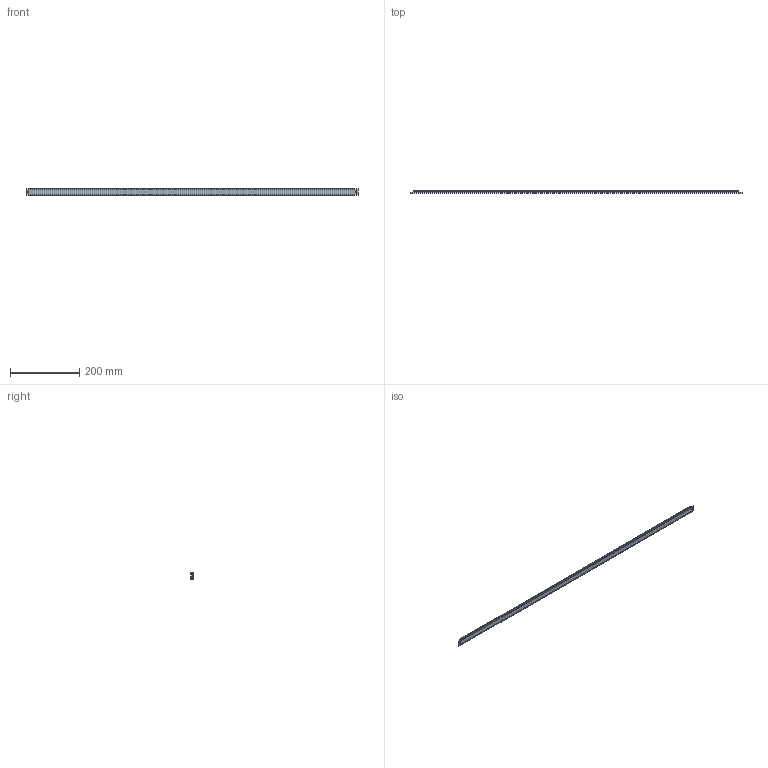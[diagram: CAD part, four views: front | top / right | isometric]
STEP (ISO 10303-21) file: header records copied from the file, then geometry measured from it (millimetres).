
FILE_DESCRIPTION (( 'STEP AP214' ), '1' );
FILE_NAME ('SAScale_exposed.ScaleLneght960.STEP', '2026-03-10T09:13:05', ( '' ), ( '' ), 'SwSTEP 2.0', 'SolidWorks 2024', '' );
FILE_SCHEMA (( 'AUTOMOTIVE_DESIGN' ));
Length unit declared in the file: millimetre
Products named in the file (1): SAScale_exposed.ScaleLneght960
Bounding box: 960 x 6 x 18 mm (x, y, z)
Volume: 94684.7 mm3; surface area: 82140.9 mm2
Topology: 2 solids, 2 shells, 52 faces, 141 edges, 94 vertices
Faces by surface type: plane 37, cylinder 15
Entity records: 2247 total; most frequent: CARTESIAN_POINT 288, ORIENTED_EDGE 282, DIRECTION 277, EDGE_CURVE 141, VECTOR 111, LINE 111, VERTEX_POINT 94, AXIS2_PLACEMENT_3D 83
